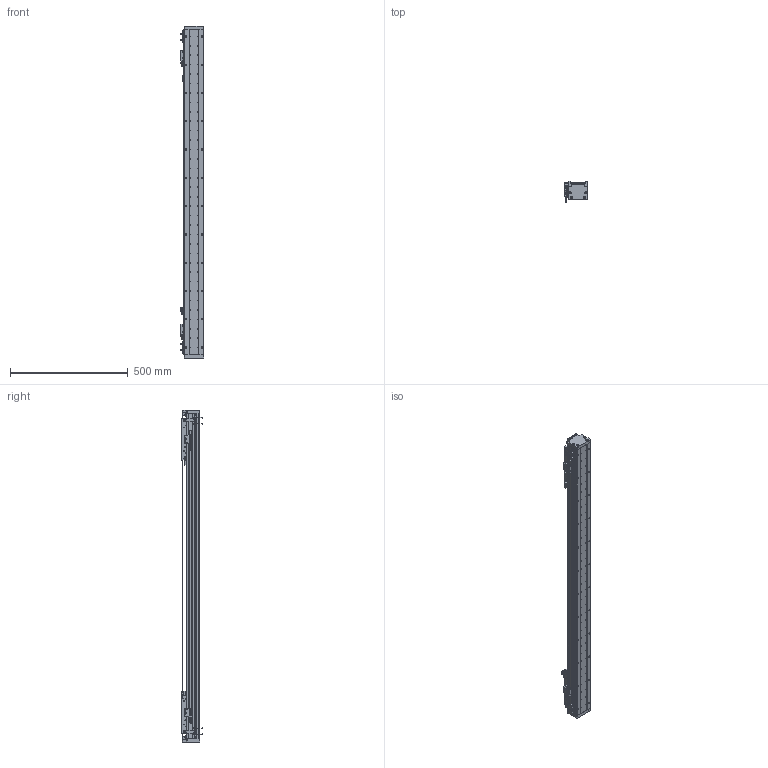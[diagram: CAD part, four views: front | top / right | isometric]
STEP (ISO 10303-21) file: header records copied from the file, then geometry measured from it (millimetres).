
FILE_DESCRIPTION (( 'STEP AP203' ), '1' );
FILE_NAME ('DA-A82-2-B2-T960-C010-0.2 眻盄萇儂.STEP', '2025-08-13T02:32:38', ( '' ), ( '' ), 'SwSTEP 2.0', 'SolidWorks 2019', '' );
FILE_SCHEMA (( 'CONFIG_CONTROL_DESIGN' ));
Length unit declared in the file: millimetre
Products named in the file (29): 复件 复件 DA82-XJ-00 缓冲橡胶^DA-A82-B2-T-C010-0.2-N 直线电机; AU82-M-00 珨极趙賑雄怢啣; 复件 XD-U-02  磁栅尺^DA-A82-B2-T-C010-0.2-N 直线电机; 复件 复件 17517-0000-004-00  钢带压块^DA-A82-B2-T-C010-0.2-N 直线电机(默认); 复件 DA82-GYP-ZJ-00 中间光电感应片^DA-A82-B2-T-C010-0.2-N 直线电机; AU82-M 幗紩賑怢-1; 复件 六角薄螺母 M3^DA-A82-B2-T-C010-0.2-N 直线电机; 复件 纯铜油杯 6x6mm^AU82-M 滚珠滑台; 复件 DA60-DMT-DTJ-00 读数头支架^DA-A82-B2-T-C010-0.2-N 直线电机; 复件 复件 17517-0000-002-00 端板^DA-A82-B2-T-C010-0.2-N 直线电机; 复件 DKW-GJ-XJ-00 防撞橡胶^DA-A82-B2-T-C010-0.2-N 直线电机; 葩璃 BKM01-W040-TRL^DA-A82-B2-T-C010-0.2-N 眻盄萇儂; 葩璃 DA82-B2-DP-00 結え^AU82-M 幗紩賑怢; IU-AU82-L 菁釱絳寢; DA-A82-2-B2-T960-C010-0.2 眻盄萇儂; 葩璃 DMT-010 1米m 0.2M^DA-A82-B2-T-C010-0.2-N 眻盄萇儂; AU82-HT-M-00 賑雄怢啣; 复件 复件 复件 DA82 钢带盖板^DA-A82-B2-T-C010-0.2-N 直线电机(默认); 葩璃 PM-T45^DA-A82-B2-T-C010-0.2-N 眻盄萇儂; 复件 DA95-GT-T-00 底座钢轨^IU-AU82-L 底座导轨; AU82-M 幗紩賑怢; DA-A60-GYP-DMT-00 光电感应片^DA-A82-B2-T-C010-0.2-N 直线电机(默认); IU-AU82-L-00 菁釱(L1380); 复件 DA95-B2-GT-00 滑块钢轨^AU82-M-00 一体化滑动台板; 复件 DA82-GDZ-ZJ-00 中间光电固定座^DA-A82-B2-T-C010-0.2-N 直线电机; AU82-M-00 珨极趙賑雄怢啣-1; 复件 复件 17517-0000-003-00 钢带拉块^DA-A82-B2-T-C010-0.2-N 直线电机; 葩璃 PM-L25^DA-A82-B2-T-C010-0.2-N 眻盄萇儂; 复件 BKM02-W040-C1-TP-DA-3.0 直线电机动子^DA-A82-B2-T-C010-0.2-N 直线电机
Assembly tree (61 placements, depth 4):
  DA-A82-2-B2-T960-C010-0.2 眻盄萇儂
    IU-AU82-L 菁釱絳寢
      IU-AU82-L-00 菁釱(L1380)
      复件 DA95-GT-T-00 底座钢轨^IU-AU82-L 底座导轨  x2
    AU82-M 幗紩賑怢
      AU82-M-00 珨极趙賑雄怢啣
        AU82-HT-M-00 賑雄怢啣
        复件 DA95-B2-GT-00 滑块钢轨^AU82-M-00 一体化滑动台板  x4
      葩璃 DA82-B2-DP-00 結え^AU82-M 幗紩賑怢  x2
      复件 纯铜油杯 6x6mm^AU82-M 滚珠滑台  x2
    AU82-M 幗紩賑怢-1
      AU82-M-00 珨极趙賑雄怢啣-1
        AU82-HT-M-00 賑雄怢啣
        复件 DA95-B2-GT-00 滑块钢轨^AU82-M-00 一体化滑动台板  x4
      葩璃 DA82-B2-DP-00 結え^AU82-M 幗紩賑怢  x2
      复件 纯铜油杯 6x6mm^AU82-M 滚珠滑台  x2
    复件 BKM02-W040-C1-TP-DA-3.0 直线电机动子^DA-A82-B2-T-C010-0.2-N 直线电机  x2
    复件 DA60-DMT-DTJ-00 读数头支架^DA-A82-B2-T-C010-0.2-N 直线电机  x2
    葩璃 DMT-010 1米m 0.2M^DA-A82-B2-T-C010-0.2-N 眻盄萇儂  x2
    DA-A60-GYP-DMT-00 光电感应片^DA-A82-B2-T-C010-0.2-N 直线电机(默认)  x2
    复件 DA82-GDZ-ZJ-00 中间光电固定座^DA-A82-B2-T-C010-0.2-N 直线电机
    葩璃 PM-L25^DA-A82-B2-T-C010-0.2-N 眻盄萇儂
    复件 DA82-GYP-ZJ-00 中间光电感应片^DA-A82-B2-T-C010-0.2-N 直线电机
    复件 DKW-GJ-XJ-00 防撞橡胶^DA-A82-B2-T-C010-0.2-N 直线电机
    复件 复件 17517-0000-003-00 钢带拉块^DA-A82-B2-T-C010-0.2-N 直线电机  x2
    复件 复件 DA82-XJ-00 缓冲橡胶^DA-A82-B2-T-C010-0.2-N 直线电机  x2
    复件 复件 17517-0000-004-00  钢带压块^DA-A82-B2-T-C010-0.2-N 直线电机(默认)  x2
    复件 复件 17517-0000-002-00 端板^DA-A82-B2-T-C010-0.2-N 直线电机  x2
    复件 复件 复件 DA82 钢带盖板^DA-A82-B2-T-C010-0.2-N 直线电机(默认)
    葩璃 BKM01-W040-TRL^DA-A82-B2-T-C010-0.2-N 眻盄萇儂
    葩璃 PM-T45^DA-A82-B2-T-C010-0.2-N 眻盄萇儂  x4
    复件 XD-U-02  磁栅尺^DA-A82-B2-T-C010-0.2-N 直线电机
    复件 六角薄螺母 M3^DA-A82-B2-T-C010-0.2-N 直线电机  x8
Bounding box: 98.95 x 87.2 x 1408 mm (x, y, z)
Volume: 4578647.2 mm3; surface area: 1356992.8 mm2
Topology: 70 solids, 118 shells, 3309 faces, 8501 edges, 5270 vertices
Faces by surface type: cylinder 1483, plane 1334, cone 456, bspline 16, torus 16, sphere 4
Entity records: 67151 total; most frequent: CARTESIAN_POINT 14653, DIRECTION 10427, ORIENTED_EDGE 9784, EDGE_CURVE 4892, AXIS2_PLACEMENT_3D 3949, VERTEX_POINT 3174, LINE 2529, VECTOR 2529
